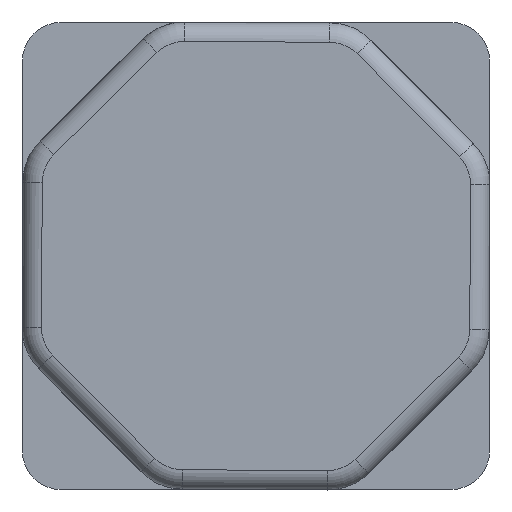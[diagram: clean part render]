
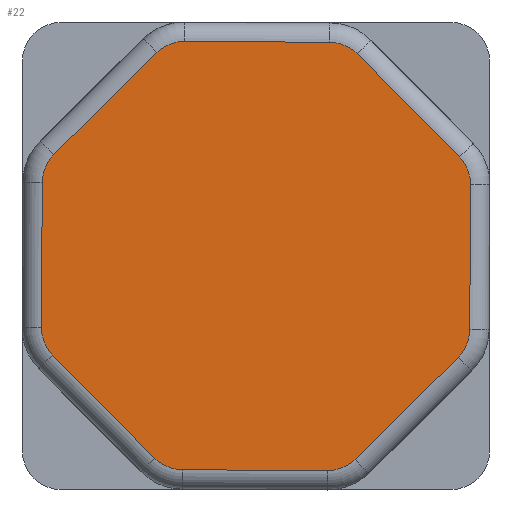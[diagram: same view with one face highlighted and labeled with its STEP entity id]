
A CAD part, left-side view. The second image highlights one B-rep face of the part: STEP entity #22.
In plain terms, the highlighted planar face has unit normal (-1, 0, 0).
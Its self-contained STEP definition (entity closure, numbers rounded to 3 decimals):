
#18 = EDGE_CURVE ( 'NONE', #1633, #3052, #509, .T. ) ;
#22 = ADVANCED_FACE ( 'NONE', ( #2581 ), #2841, .T. ) ;
#34 = AXIS2_PLACEMENT_3D ( 'NONE', #2136, #1788, #1453 ) ;
#43 = CARTESIAN_POINT ( 'NONE',  ( -335., -18.876, 44.901 ) ) ;
#46 = LINE ( 'NONE', #3039, #2660 ) ;
#47 = AXIS2_PLACEMENT_3D ( 'NONE', #656, #3311, #2982 ) ;
#75 = EDGE_CURVE ( 'NONE', #3052, #1807, #2371, .T. ) ;
#85 = EDGE_CURVE ( 'NONE', #2954, #281, #89, .T. ) ;
#89 = CIRCLE ( 'NONE', #2938, 10. ) ;
#132 = CARTESIAN_POINT ( 'NONE',  ( -335., 18.403, 45.097 ) ) ;
#160 = DIRECTION ( 'NONE',  ( -1., 0., 0. ) ) ;
#172 = AXIS2_PLACEMENT_3D ( 'NONE', #1888, #1538, #1214 ) ;
#189 = CARTESIAN_POINT ( 'NONE',  ( -335., 18.35, 55.097 ) ) ;
#212 = VERTEX_POINT ( 'NONE', #459 ) ;
#248 = VECTOR ( 'NONE', #355, 1000. ) ;
#264 = LINE ( 'NONE', #3264, #1895 ) ;
#281 = VERTEX_POINT ( 'NONE', #1314 ) ;
#355 = DIRECTION ( 'NONE',  ( 0., 0.703, 0.711 ) ) ;
#361 = VERTEX_POINT ( 'NONE', #2182 ) ;
#370 = DIRECTION ( 'NONE',  ( 0., -1., -0.005 ) ) ;
#382 = EDGE_CURVE ( 'NONE', #1477, #1813, #1834, .T. ) ;
#422 = ORIENTED_EDGE ( 'NONE', *, *, #814, .T. ) ;
#447 = CARTESIAN_POINT ( 'NONE',  ( -335., 18.929, -54.901 ) ) ;
#451 = VECTOR ( 'NONE', #3182, 1000. ) ;
#459 = CARTESIAN_POINT ( 'NONE',  ( -335., -18.35, -55.097 ) ) ;
#470 = DIRECTION ( 'NONE',  ( 0., 0., 1. ) ) ;
#509 = LINE ( 'NONE', #189, #451 ) ;
#544 = DIRECTION ( 'NONE',  ( 0., 0.005, -1. ) ) ;
#545 = EDGE_CURVE ( 'NONE', #2316, #3026, #264, .T. ) ;
#553 = CARTESIAN_POINT ( 'NONE',  ( -335., -18.929, 54.901 ) ) ;
#633 = VECTOR ( 'NONE', #544, 1000. ) ;
#656 = CARTESIAN_POINT ( 'NONE',  ( -335., -44.901, -18.876 ) ) ;
#682 = AXIS2_PLACEMENT_3D ( 'NONE', #132, #3119, #2777 ) ;
#688 = CARTESIAN_POINT ( 'NONE',  ( -335., 25.984, -51.935 ) ) ;
#699 = CARTESIAN_POINT ( 'NONE',  ( -335., -25.984, 51.935 ) ) ;
#715 = CARTESIAN_POINT ( 'NONE',  ( -335., -18.35, -55.097 ) ) ;
#779 = CARTESIAN_POINT ( 'NONE',  ( -335., 18.403, 55.097 ) ) ;
#814 = EDGE_CURVE ( 'NONE', #3026, #361, #846, .T. ) ;
#816 = DIRECTION ( 'NONE',  ( -1., 0., 0. ) ) ;
#835 = CARTESIAN_POINT ( 'NONE',  ( -335., 45.097, -18.403 ) ) ;
#846 = CIRCLE ( 'NONE', #2810, 10. ) ;
#885 = VERTEX_POINT ( 'NONE', #2709 ) ;
#889 = CARTESIAN_POINT ( 'NONE',  ( -335., 55.097, -18.35 ) ) ;
#894 = DIRECTION ( 'NONE',  ( 0., 0., 1. ) ) ;
#907 = ORIENTED_EDGE ( 'NONE', *, *, #3301, .T. ) ;
#908 = ORIENTED_EDGE ( 'NONE', *, *, #1415, .T. ) ;
#923 = VECTOR ( 'NONE', #1063, 1000. ) ;
#963 = VERTEX_POINT ( 'NONE', #2545 ) ;
#1033 = LINE ( 'NONE', #699, #248 ) ;
#1051 = LINE ( 'NONE', #715, #2819 ) ;
#1063 = DIRECTION ( 'NONE',  ( 0., -0.711, 0.703 ) ) ;
#1087 = ORIENTED_EDGE ( 'NONE', *, *, #18, .T. ) ;
#1154 = CARTESIAN_POINT ( 'NONE',  ( -335., 18.403, 45.097 ) ) ;
#1214 = DIRECTION ( 'NONE',  ( 0., 0., 1. ) ) ;
#1230 = DIRECTION ( 'NONE',  ( -1., 0., 0. ) ) ;
#1314 = CARTESIAN_POINT ( 'NONE',  ( -335., -52.206, 25.436 ) ) ;
#1380 = ORIENTED_EDGE ( 'NONE', *, *, #75, .T. ) ;
#1396 = CARTESIAN_POINT ( 'NONE',  ( -335., -51.935, -25.984 ) ) ;
#1415 = EDGE_CURVE ( 'NONE', #1813, #2514, #2290, .T. ) ;
#1427 = CIRCLE ( 'NONE', #172, 10. ) ;
#1446 = ORIENTED_EDGE ( 'NONE', *, *, #2993, .T. ) ;
#1453 = DIRECTION ( 'NONE',  ( 0., 0., 1. ) ) ;
#1477 = VERTEX_POINT ( 'NONE', #2568 ) ;
#1500 = ORIENTED_EDGE ( 'NONE', *, *, #3323, .T. ) ;
#1519 = AXIS2_PLACEMENT_3D ( 'NONE', #2611, #2254, #1911 ) ;
#1522 = ORIENTED_EDGE ( 'NONE', *, *, #545, .T. ) ;
#1538 = DIRECTION ( 'NONE',  ( -1., 0., 0. ) ) ;
#1545 = VERTEX_POINT ( 'NONE', #3272 ) ;
#1587 = EDGE_CURVE ( 'NONE', #2594, #2954, #46, .T. ) ;
#1609 = DIRECTION ( 'NONE',  ( 0., -0.703, -0.711 ) ) ;
#1633 = VERTEX_POINT ( 'NONE', #553 ) ;
#1686 = ORIENTED_EDGE ( 'NONE', *, *, #2198, .T. ) ;
#1724 = ORIENTED_EDGE ( 'NONE', *, *, #382, .T. ) ;
#1735 = LINE ( 'NONE', #1396, #923 ) ;
#1750 = CARTESIAN_POINT ( 'NONE',  ( -335., -55.097, 18.35 ) ) ;
#1776 = VECTOR ( 'NONE', #1609, 1000. ) ;
#1788 = DIRECTION ( 'NONE',  ( -1., 0., 0. ) ) ;
#1796 = CARTESIAN_POINT ( 'NONE',  ( -335., -54.901, -18.929 ) ) ;
#1807 = VERTEX_POINT ( 'NONE', #779 ) ;
#1813 = VERTEX_POINT ( 'NONE', #2761 ) ;
#1834 = CIRCLE ( 'NONE', #2986, 10. ) ;
#1856 = AXIS2_PLACEMENT_3D ( 'NONE', #43, #3037, #2691 ) ;
#1888 = CARTESIAN_POINT ( 'NONE',  ( -335., -18.403, -45.097 ) ) ;
#1895 = VECTOR ( 'NONE', #2939, 1000. ) ;
#1900 = CARTESIAN_POINT ( 'NONE',  ( -335., 44.901, 18.876 ) ) ;
#1911 = DIRECTION ( 'NONE',  ( 0., 0., 1. ) ) ;
#1948 = CARTESIAN_POINT ( 'NONE',  ( -335., 25.984, -51.935 ) ) ;
#2044 = ORIENTED_EDGE ( 'NONE', *, *, #2883, .T. ) ;
#2070 = ORIENTED_EDGE ( 'NONE', *, *, #1587, .T. ) ;
#2136 = CARTESIAN_POINT ( 'NONE',  ( -335., 18.876, -44.901 ) ) ;
#2182 = CARTESIAN_POINT ( 'NONE',  ( -335., 54.901, 18.929 ) ) ;
#2191 = CARTESIAN_POINT ( 'NONE',  ( -335., 18.35, 55.097 ) ) ;
#2195 = ORIENTED_EDGE ( 'NONE', *, *, #2884, .T. ) ;
#2198 = EDGE_CURVE ( 'NONE', #281, #963, #1033, .T. ) ;
#2203 = CIRCLE ( 'NONE', #1856, 10. ) ;
#2254 = DIRECTION ( 'NONE',  ( -1., 0., 0. ) ) ;
#2259 = EDGE_CURVE ( 'NONE', #212, #885, #1427, .T. ) ;
#2287 = EDGE_LOOP ( 'NONE', ( #1724, #908, #1500, #2044, #3030, #907, #1446, #2070, #3271, #1686, #2195, #1087, #1380, #3051, #1522, #422, #3295 ) ) ;
#2290 = LINE ( 'NONE', #1948, #1776 ) ;
#2313 = DIRECTION ( 'NONE',  ( 0., 0., 1. ) ) ;
#2316 = VERTEX_POINT ( 'NONE', #2696 ) ;
#2371 = CIRCLE ( 'NONE', #682, 10. ) ;
#2485 = CIRCLE ( 'NONE', #1519, 10. ) ;
#2514 = VERTEX_POINT ( 'NONE', #688 ) ;
#2545 = CARTESIAN_POINT ( 'NONE',  ( -335., -25.984, 51.935 ) ) ;
#2568 = CARTESIAN_POINT ( 'NONE',  ( -335., 55.097, -18.35 ) ) ;
#2581 = FACE_OUTER_BOUND ( 'NONE', #2287, .T. ) ;
#2594 = VERTEX_POINT ( 'NONE', #1796 ) ;
#2598 = LINE ( 'NONE', #889, #633 ) ;
#2611 = CARTESIAN_POINT ( 'NONE',  ( -335., 18.876, -44.901 ) ) ;
#2630 = EDGE_CURVE ( 'NONE', #361, #1477, #2598, .T. ) ;
#2634 = CARTESIAN_POINT ( 'NONE',  ( -335., 51.935, 25.984 ) ) ;
#2660 = VECTOR ( 'NONE', #2693, 1000. ) ;
#2678 = DIRECTION ( 'NONE',  ( -1., 0., 0. ) ) ;
#2691 = DIRECTION ( 'NONE',  ( 0., 0., 1. ) ) ;
#2693 = DIRECTION ( 'NONE',  ( 0., -0.005, 1. ) ) ;
#2696 = CARTESIAN_POINT ( 'NONE',  ( -335., 25.436, 52.206 ) ) ;
#2709 = CARTESIAN_POINT ( 'NONE',  ( -335., -25.436, -52.206 ) ) ;
#2738 = CIRCLE ( 'NONE', #47, 10. ) ;
#2761 = CARTESIAN_POINT ( 'NONE',  ( -335., 52.206, -25.436 ) ) ;
#2774 = AXIS2_PLACEMENT_3D ( 'NONE', #1154, #816, #470 ) ;
#2777 = DIRECTION ( 'NONE',  ( 0., 0., 1. ) ) ;
#2810 = AXIS2_PLACEMENT_3D ( 'NONE', #1900, #1230, #894 ) ;
#2819 = VECTOR ( 'NONE', #370, 1000. ) ;
#2841 = PLANE ( 'NONE',  #34 ) ;
#2870 = VERTEX_POINT ( 'NONE', #447 ) ;
#2883 = EDGE_CURVE ( 'NONE', #2870, #212, #1051, .T. ) ;
#2884 = EDGE_CURVE ( 'NONE', #963, #1633, #2203, .T. ) ;
#2935 = EDGE_CURVE ( 'NONE', #1807, #2316, #3002, .T. ) ;
#2938 = AXIS2_PLACEMENT_3D ( 'NONE', #3024, #2678, #2313 ) ;
#2939 = DIRECTION ( 'NONE',  ( 0., 0.711, -0.703 ) ) ;
#2954 = VERTEX_POINT ( 'NONE', #1750 ) ;
#2982 = DIRECTION ( 'NONE',  ( 0., 0., 1. ) ) ;
#2986 = AXIS2_PLACEMENT_3D ( 'NONE', #835, #160, #3156 ) ;
#2993 = EDGE_CURVE ( 'NONE', #1545, #2594, #2738, .T. ) ;
#3002 = CIRCLE ( 'NONE', #2774, 10. ) ;
#3024 = CARTESIAN_POINT ( 'NONE',  ( -335., -45.097, 18.403 ) ) ;
#3026 = VERTEX_POINT ( 'NONE', #2634 ) ;
#3030 = ORIENTED_EDGE ( 'NONE', *, *, #2259, .T. ) ;
#3037 = DIRECTION ( 'NONE',  ( -1., 0., 0. ) ) ;
#3039 = CARTESIAN_POINT ( 'NONE',  ( -335., -55.097, 18.35 ) ) ;
#3051 = ORIENTED_EDGE ( 'NONE', *, *, #2935, .T. ) ;
#3052 = VERTEX_POINT ( 'NONE', #2191 ) ;
#3119 = DIRECTION ( 'NONE',  ( -1., 0., 0. ) ) ;
#3156 = DIRECTION ( 'NONE',  ( 0., 0., 1. ) ) ;
#3182 = DIRECTION ( 'NONE',  ( 0., 1., 0.005 ) ) ;
#3264 = CARTESIAN_POINT ( 'NONE',  ( -335., 51.935, 25.984 ) ) ;
#3271 = ORIENTED_EDGE ( 'NONE', *, *, #85, .T. ) ;
#3272 = CARTESIAN_POINT ( 'NONE',  ( -335., -51.935, -25.984 ) ) ;
#3295 = ORIENTED_EDGE ( 'NONE', *, *, #2630, .T. ) ;
#3301 = EDGE_CURVE ( 'NONE', #885, #1545, #1735, .T. ) ;
#3311 = DIRECTION ( 'NONE',  ( -1., 0., 0. ) ) ;
#3323 = EDGE_CURVE ( 'NONE', #2514, #2870, #2485, .T. ) ;
